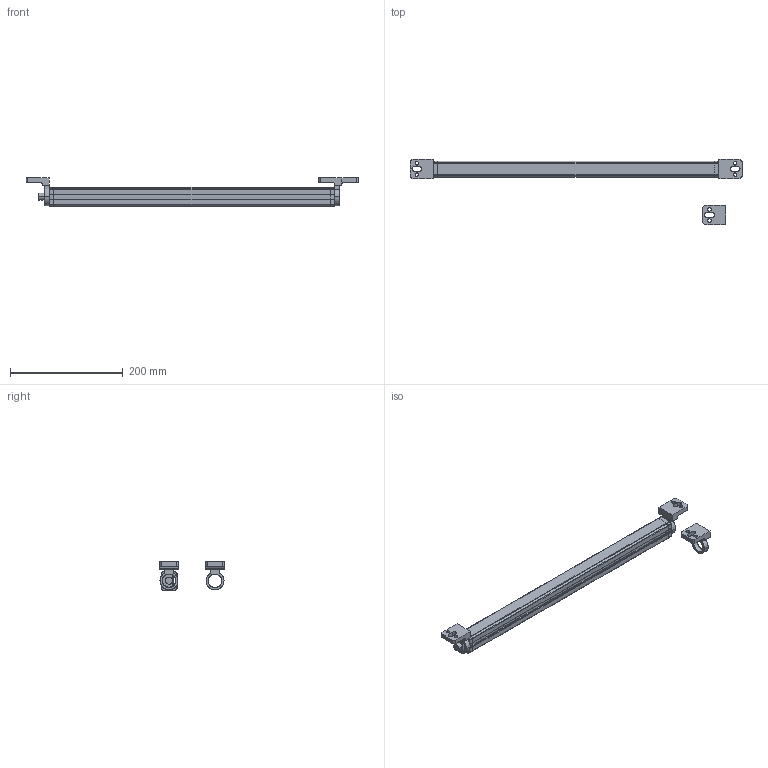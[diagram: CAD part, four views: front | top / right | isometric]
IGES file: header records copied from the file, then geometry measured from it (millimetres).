
Global section: file name: M:\acadjob\SOLID-2\DXF-IGES-Geräte-Daten für Kunden\IGES\Solid_450.igs; native system: AutoCAD-15.05s (LMS Tech) (Microsoft Windows NT Version 5.1 (x86)); preprocessor: Autodesk IGES Translator R2000i (Jul 31 2000) from Autodesk, Inc.; date: 20070306.155355; units: millimetre
Bounding box: 589.97 x 115.8 x 51.28 mm (x, y, z)
Surface area: 121881.1 mm2 (no closed solid volume)
Topology: 0 solids, 0 shells, 230 faces, 5800 edges, 5800 vertices
Faces by surface type: bspline 230
